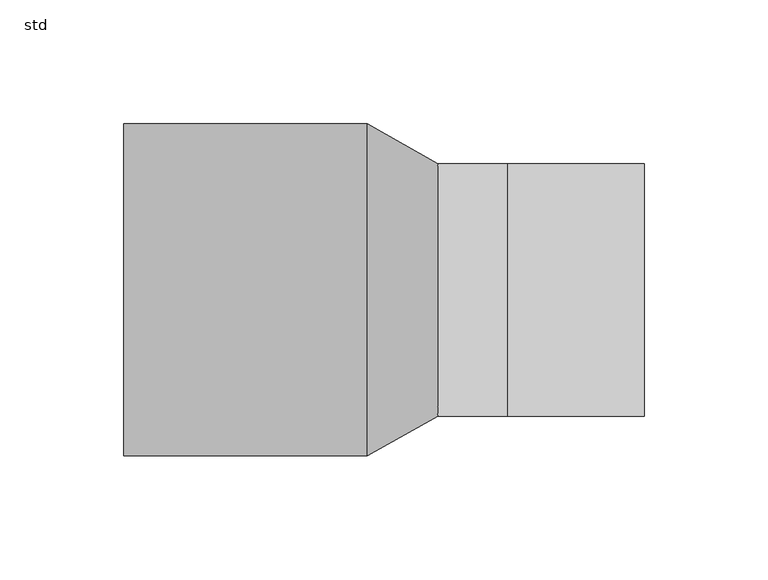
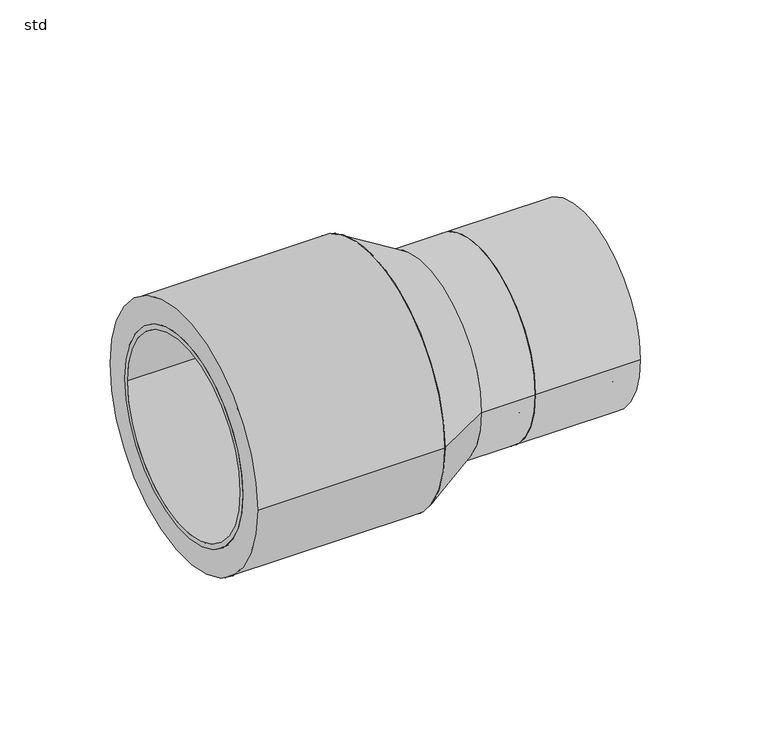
"""IFC4 building model written with IfcOpenShell, lengths in millimetres: pipe fitting geometry, PIF_ST_UN_GM-X compound pipe optimiser (multiport)_ACO : std."""

import ifcopenshell
import ifcopenshell.guid

model = None  # the IFC model being written
_history = None  # IfcOwnerHistory: only IFC2X3 demands one
_inside = {}  # id of a spatial element -> (the spatial element, [elements in it])
_under = {}  # id of a project, library or spatial element -> (it, [spatial elements below it])
_declared = {}  # id of a project -> (the project, [libraries it declares])
_typed = {}  # id of a type object -> (the type object, [elements of that type])
_made_of = {}  # id of a material, layer set ... -> (it, [elements and type objects made of it])


def new_model(schema):
    """Start an empty IFC model of exactly this schema.

    Asked for "IFC4X3", IfcOpenShell would pick the latest addendum, in which some entities
    have other attributes; the version numbers below select the first issue.
    IFC2X3 requires an IfcOwnerHistory on every rooted entity: one is made here for all.
    """
    global model, _history
    if schema == "IFC4X3":
        model = ifcopenshell.file(schema_version=(4, 3, 0, 0))
    else:
        model = ifcopenshell.file(schema=schema)
    _inside.clear()
    _under.clear()
    _declared.clear()
    _typed.clear()
    _made_of.clear()
    _history = None
    if model.schema == "IFC2X3":
        org = make("IfcOrganization", Name="unknown")
        user = make(
            "IfcPersonAndOrganization",
            ThePerson=make("IfcPerson", FamilyName="unknown"),
            TheOrganization=org,
        )
        app = make(
            "IfcApplication",
            ApplicationDeveloper=org,
            Version="unknown",
            ApplicationFullName="unknown",
            ApplicationIdentifier="unknown",
        )
        _history = make(
            "IfcOwnerHistory",
            OwningUser=user,
            OwningApplication=app,
            ChangeAction="ADDED",
            CreationDate=0,
        )
    return model


def make(cls, **values):
    """One entity of the class cls with the attributes given. An attribute that is None is left unset."""
    return model.create_entity(
        cls, **{name: value for name, value in values.items() if value is not None}
    )


def rooted(cls, **values):
    """An entity with a GlobalId (a new one), such as an element, a storey or a relation."""
    return make(cls, GlobalId=ifcopenshell.guid.new(), OwnerHistory=_history, **values)


def si_unit(unit_type, name, prefix=None):
    """IfcSIUnit, for example si_unit("LENGTHUNIT", "METRE", prefix="MILLI")."""
    return make("IfcSIUnit", UnitType=unit_type, Prefix=prefix, Name=name)


def assignment(units):
    """IfcUnitAssignment: the units of a project."""
    return None if units is None else make("IfcUnitAssignment", Units=units)


def point(xyz):
    """IfcCartesianPoint."""
    return None if xyz is None else make("IfcCartesianPoint", Coordinates=xyz)


def direction(xyz):
    """IfcDirection."""
    return None if xyz is None else make("IfcDirection", DirectionRatios=xyz)


def frame(location, z_axis=None, x_axis=None):
    """IfcAxis2Placement3D, a coordinate frame: its origin and axes. An axis left out is left unset."""
    return make(
        "IfcAxis2Placement3D",
        Location=point(location),
        Axis=direction(z_axis),
        RefDirection=direction(x_axis),
    )


def frame_2d(location, x_axis=None):
    """IfcAxis2Placement2D, a coordinate frame in the plane: its origin and x axis."""
    return make(
        "IfcAxis2Placement2D", Location=point(location), RefDirection=direction(x_axis)
    )


def origin():
    """The frame at (0, 0, 0) with its axes left unset."""
    return frame((0.0, 0.0, 0.0))


def origin_2d():
    """The frame at (0, 0) in the plane with its x axis left unset."""
    return frame_2d((0.0, 0.0))


def place(relative_to, where):
    """IfcLocalPlacement: puts the frame where relative to a parent placement (None: the world)."""
    return make(
        "IfcLocalPlacement", PlacementRelTo=relative_to, RelativePlacement=where
    )


def context(
    kind, dimensions, precision=None, world=None, true_north=None, identifier=None
):
    """IfcGeometricRepresentationContext, for example the 3D "Model" context."""
    return make(
        "IfcGeometricRepresentationContext",
        ContextIdentifier=identifier,
        ContextType=kind,
        CoordinateSpaceDimension=dimensions,
        Precision=precision,
        WorldCoordinateSystem=world,
        TrueNorth=true_north,
    )


def project(units=None, contexts=None):
    """IfcProject with its units and contexts."""
    return rooted(
        "IfcProject",
        Name="project",
        RepresentationContexts=contexts,
        UnitsInContext=assignment(units),
    )


def spatial(cls, under=None, at=None, **own):
    """A site, building, storey or space (cls), placed at a placement, below another one or the project."""
    s = rooted(cls, ObjectPlacement=at, **own)
    if under is not None:
        _under.setdefault(under.id(), (under, []))[1].append(s)
    return s


def polyline(points):
    """IfcPolyline through the points."""
    return make("IfcPolyline", Points=[point(p) for p in points])


def circle_curve(where, radius):
    """IfcCircle in the frame where."""
    return make("IfcCircle", Position=where, Radius=radius)


def trimmed(basis, trim1, trim2, sense, master):
    """IfcTrimmedCurve: the piece of a basis curve between two trims."""
    return make(
        "IfcTrimmedCurve",
        BasisCurve=basis,
        Trim1=trim1,
        Trim2=trim2,
        SenseAgreement=sense,
        MasterRepresentation=master,
    )


def segment(curve, same_sense, transition):
    """IfcCompositeCurveSegment."""
    return make(
        "IfcCompositeCurveSegment",
        Transition=transition,
        SameSense=same_sense,
        ParentCurve=curve,
    )


def composite_curve(segments, self_intersect=None):
    """IfcCompositeCurve: segments joined end to end."""
    return make("IfcCompositeCurve", Segments=segments, SelfIntersect=self_intersect)


def outline(outer, holes=None, kind="AREA"):
    """IfcArbitraryClosedProfileDef: a profile drawn as a closed curve; with holes, ...WithVoids."""
    if holes is None:
        return make("IfcArbitraryClosedProfileDef", ProfileType=kind, OuterCurve=outer)
    return make(
        "IfcArbitraryProfileDefWithVoids",
        ProfileType=kind,
        OuterCurve=outer,
        InnerCurves=holes,
    )


def extrude(swept, where, along, depth):
    """IfcExtrudedAreaSolid: the profile swept, set in the frame where, extruded along a direction by depth."""
    return make(
        "IfcExtrudedAreaSolid",
        SweptArea=swept,
        Position=where,
        ExtrudedDirection=direction(along),
        Depth=depth,
    )


def shape(context_of_items, identifier, shape_type, items):
    """IfcShapeRepresentation: the items that make up one representation, for example the "Body"."""
    return make(
        "IfcShapeRepresentation",
        ContextOfItems=context_of_items,
        RepresentationIdentifier=identifier,
        RepresentationType=shape_type,
        Items=items,
    )


def source(mapping_origin, context_of_items, identifier, shape_type, items):
    """IfcRepresentationMap: a shape defined once, which mapped items show again and again."""
    return make(
        "IfcRepresentationMap",
        MappingOrigin=mapping_origin,
        MappedRepresentation=shape(context_of_items, identifier, shape_type, items),
    )


def transform(
    local_origin,
    x_axis=None,
    y_axis=None,
    z_axis=None,
    scale=None,
    scale2=None,
    scale3=None,
    uniform=True,
):
    """IfcCartesianTransformationOperator3D, or its non-uniform kind. x_axis, y_axis, z_axis: its Axis1, 2, 3."""
    if uniform:
        return make(
            "IfcCartesianTransformationOperator3D",
            Axis1=direction(x_axis),
            Axis2=direction(y_axis),
            LocalOrigin=point(local_origin),
            Scale=scale,
            Axis3=direction(z_axis),
        )
    return make(
        "IfcCartesianTransformationOperator3DnonUniform",
        Axis1=direction(x_axis),
        Axis2=direction(y_axis),
        LocalOrigin=point(local_origin),
        Scale=scale,
        Axis3=direction(z_axis),
        Scale2=scale2,
        Scale3=scale3,
    )


def mapped(mapping_source, mapping_target):
    """IfcMappedItem: shows the shape of a source again, moved by a transform."""
    return make(
        "IfcMappedItem", MappingSource=mapping_source, MappingTarget=mapping_target
    )


def made_of(thing, what):
    """Note that an element or type object is made of a material, layer set ...; save() writes the relation."""
    if what is not None:
        _made_of.setdefault(what.id(), (what, []))[1].append(thing)
    return thing


def element(
    cls,
    number,
    at=None,
    inside=None,
    cuts=None,
    type_object=None,
    material=None,
    context=None,
    identifier="Body",
    shape_type=None,
    held_by="IfcProductDefinitionShape",
    body=None,
    shapes=None,
    **own,
):
    """One element of the class cls, such as IfcWall. Its Tag is "e" and its number.

    at: its placement. inside: the storey or other place that contains it. cuts: it is an
    opening in that element (IfcRelVoidsElement). A single representation is given by context,
    identifier, shape_type and body (its items); several are given by shapes. held_by: the class
    of the entity that holds the representations. save() writes the other relations.
    """
    e = rooted(cls, Tag="e%d" % number, ObjectPlacement=at, **own)
    if body is not None:
        shapes = [shape(context, identifier, shape_type, body)]
    if shapes is not None:
        e.Representation = make(held_by, Representations=shapes)
    if inside is not None:
        _inside.setdefault(inside.id(), (inside, []))[1].append(e)
    if cuts is not None:
        rooted(
            "IfcRelVoidsElement", RelatingBuildingElement=cuts, RelatedOpeningElement=e
        )
    if type_object is not None:
        _typed.setdefault(type_object.id(), (type_object, []))[1].append(e)
    return made_of(e, material)


def aggregate(whole, parts):
    """IfcRelAggregates: a whole, such as a stair, and the parts it consists of."""
    return rooted("IfcRelAggregates", RelatingObject=whole, RelatedObjects=parts)


def save(model, path):
    """Write the relations noted so far, then the file.

    IfcRelAggregates (storeys below a building ...), IfcRelContainedInSpatialStructure (elements
    in a storey), IfcRelDefinesByType, IfcRelAssociatesMaterial and IfcRelDeclares: one each for
    every whole, place, type object, material and project.
    """
    for whole, parts in _under.values():
        aggregate(whole, parts)
    for where, things in _inside.values():
        rooted(
            "IfcRelContainedInSpatialStructure",
            RelatedElements=things,
            RelatingStructure=where,
        )
    for kind, things in _typed.values():
        rooted("IfcRelDefinesByType", RelatedObjects=things, RelatingType=kind)
    for what, things in _made_of.values():
        rooted("IfcRelAssociatesMaterial", RelatedObjects=things, RelatingMaterial=what)
    for by, libraries in _declared.values():
        rooted("IfcRelDeclares", RelatingContext=by, RelatedDefinitions=libraries)
    model.write(path)


def plane_surface(at):
    """IfcPlane: the flat surface through the origin of the frame at, square to its z axis."""
    return make("IfcPlane", Position=at)


def cylinder_surface(at, radius):
    """IfcCylindricalSurface: all points at the distance radius from the z axis of the frame at."""
    return make("IfcCylindricalSurface", Position=at, Radius=radius)


def revolved_surface(curve, axis_point, axis_direction):
    """IfcSurfaceOfRevolution: the curve turned about the line through axis_point along axis_direction."""
    return make(
        "IfcSurfaceOfRevolution",
        SweptCurve=make("IfcArbitraryOpenProfileDef", ProfileType="CURVE", Curve=curve),
        AxisPosition=make("IfcAxis1Placement", Location=point(axis_point), Axis=direction(axis_direction)),
    )


def advanced_brep(points, edges, surfaces, faces):
    """IfcAdvancedBrep: a solid bounded by faces that lie on surfaces and meet in shared edges.

    An edge is (start, end): straight between two places in points (the first is 0);
    or (start, end, curve); or (start, end, curve, False) where it runs against its curve.
    A face is (place in surfaces, loops), or (place, loops, False) where it looks against
    its surface's normal. A loop lists edges by number (the first is 1), with a minus sign
    where the edge is run from its end to its start. The first loop is the outer one.
    """
    corners = [point(p) for p in points]
    vertices = [make("IfcVertexPoint", VertexGeometry=c) for c in corners]
    made = []
    for start, end, *more in edges:
        made.append(
            make(
                "IfcEdgeCurve",
                EdgeStart=vertices[start],
                EdgeEnd=vertices[end],
                EdgeGeometry=more[0] if more else make("IfcPolyline", Points=[corners[start], corners[end]]),
                SameSense=more[1] if len(more) > 1 else True,
            )
        )
    hull = []
    for where, loops, *sense in faces:
        bounds = []
        for j, loop in enumerate(loops):
            ring = [make("IfcOrientedEdge", EdgeElement=made[abs(k) - 1], Orientation=k > 0) for k in loop]
            bounds.append(
                make(
                    "IfcFaceOuterBound" if j == 0 else "IfcFaceBound",
                    Bound=make("IfcEdgeLoop", EdgeList=ring),
                    Orientation=True,
                )
            )
        hull.append(make("IfcAdvancedFace", Bounds=bounds, FaceSurface=surfaces[where], SameSense=sense[0] if sense else True))
    return make("IfcAdvancedBrep", Outer=make("IfcClosedShell", CfsFaces=hull))


def std_a092916b(model_context):
    return source(origin(), model_context, "Body", "SolidModel", [
        extrude(outline(composite_curve([segment(trimmed(circle_curve(origin_2d(), 51.0), [point((-51.0, 0.0))], [point((51.0, 0.0))], False, "CARTESIAN"), True, "CONTINUOUS"), segment(trimmed(circle_curve(origin_2d(), 51.0), [point((51.0, 0.0))], [point((-51.0, 0.0))], False, "CARTESIAN"), True, "CONTINUOUS")], self_intersect=False), holes=[composite_curve([segment(trimmed(circle_curve(origin_2d(), 38.0), [point((-38.0, 0.0))], [point((38.0, 0.0))], True, "CARTESIAN"), True, "CONTINUOUS"), segment(trimmed(circle_curve(origin_2d(), 38.0), [point((38.0, 0.0))], [point((-38.0, 0.0))], True, "CARTESIAN"), True, "CONTINUOUS")], self_intersect=False)]), frame((85.0, 0.0, 0.0), z_axis=(1.0, 0.0, 0.0), x_axis=(0.0, 1.0, 0.0)), (0.0, 0.0, 1.0), 55.0),
        advanced_brep(
        [(140.0, -38.0, 0.0), (140.0, 38.0, 0.0), (140.0, 36.5, 0.0), (140.0, -36.5, 0.0), (85.0, -38.0, 0.0), (85.0, 38.0, 0.0), (85.0, -36.5, 0.0), (85.0, 36.5, 0.0), (111.0, -38.0, 0.0), (111.0, 38.0, 0.0), (90.9, 38.0, 0.0), (90.9, -38.0, 0.0), (111.0, -42.1, 0.0), (111.0, 42.1, 0.0), (90.9, -42.1, 0.0), (90.9, 42.1, 0.0)],
        [
            (0, 1, circle_curve(frame((140.0, 0.0, 0.0), z_axis=(1.0, 0.0, 0.0), x_axis=(0.0, 1.0, 0.0)), 38.0)),
            (1, 0, circle_curve(frame((140.0, 0.0, 0.0), z_axis=(1.0, 0.0, 0.0), x_axis=(0.0, 1.0, 0.0)), 38.0)),
            (2, 3, circle_curve(frame((140.0, 0.0, 0.0), z_axis=(-1.0, 0.0, 0.0), x_axis=(0.0, 1.0, 0.0)), 36.5)),
            (3, 2, circle_curve(frame((140.0, 0.0, 0.0), z_axis=(-1.0, 0.0, 0.0), x_axis=(0.0, 1.0, 0.0)), 36.5)),
            (4, 5, circle_curve(frame((85.0, 0.0, 0.0), z_axis=(-1.0, 0.0, 0.0), x_axis=(0.0, 1.0, 0.0)), 38.0)),
            (5, 4, circle_curve(frame((85.0, 0.0, 0.0), z_axis=(-1.0, 0.0, 0.0), x_axis=(0.0, 1.0, 0.0)), 38.0)),
            (6, 7, circle_curve(frame((85.0, 0.0, 0.0), z_axis=(1.0, 0.0, 0.0), x_axis=(0.0, 1.0, 0.0)), 36.5)),
            (7, 6, circle_curve(frame((85.0, 0.0, 0.0), z_axis=(1.0, 0.0, 0.0), x_axis=(0.0, 1.0, 0.0)), 36.5)),
            (0, 8),
            (8, 9, circle_curve(frame((111.0, 0.0, 0.0), z_axis=(1.0, 0.0, 0.0), x_axis=(0.0, 1.0, 0.0)), 38.0)),
            (9, 1),
            (5, 10),
            (10, 11, circle_curve(frame((90.9, 0.0, 0.0), z_axis=(-1.0, 0.0, 0.0), x_axis=(0.0, 1.0, 0.0)), 38.0)),
            (11, 4),
            (9, 8, circle_curve(frame((111.0, 0.0, 0.0), z_axis=(1.0, 0.0, 0.0), x_axis=(0.0, 1.0, 0.0)), 38.0)),
            (11, 10, circle_curve(frame((90.9, 0.0, 0.0), z_axis=(-1.0, 0.0, 0.0), x_axis=(0.0, 1.0, 0.0)), 38.0)),
            (2, 7),
            (6, 3),
            (12, 13, circle_curve(frame((111.0, 0.0, 0.0), z_axis=(1.0, 0.0, 0.0), x_axis=(0.0, 1.0, 0.0)), 42.1)),
            (13, 12, circle_curve(frame((111.0, 0.0, 0.0), z_axis=(1.0, 0.0, 0.0), x_axis=(0.0, 1.0, 0.0)), 42.1)),
            (14, 15, circle_curve(frame((90.9, 0.0, 0.0), z_axis=(-1.0, 0.0, 0.0), x_axis=(0.0, 1.0, 0.0)), 42.1)),
            (15, 14, circle_curve(frame((90.9, 0.0, 0.0), z_axis=(-1.0, 0.0, 0.0), x_axis=(0.0, 1.0, 0.0)), 42.1)),
            (12, 14),
            (15, 13),
        ],
        [
            plane_surface(frame((140.0, 38.0, 0.0), z_axis=(1.0, 0.0, 0.0), x_axis=(0.0, 0.0, 1.0))),
            plane_surface(frame((85.0, 38.0, 0.0), z_axis=(-1.0, 0.0, 0.0), x_axis=(0.0, 0.0, -1.0))),
            cylinder_surface(frame((85.0, 0.0, 0.0), z_axis=(1.0, 0.0, 0.0), x_axis=(0.0, 1.0, 0.0)), 38.0),
            revolved_surface(polyline([(140.0, 36.5, 0.0), (85.0, 36.5, 0.0)]), (85.0, 0.0, 0.0), (1.0, 0.0, 0.0)),
            plane_surface(frame((111.0, 42.1, 0.0), z_axis=(1.0, 0.0, 0.0), x_axis=(0.0, 0.0, 1.0))),
            plane_surface(frame((90.9, 42.1, 0.0), z_axis=(-1.0, 0.0, 0.0), x_axis=(0.0, 0.0, -1.0))),
            cylinder_surface(frame((90.9, 0.0, 0.0), z_axis=(1.0, 0.0, 0.0), x_axis=(0.0, 1.0, 0.0)), 42.1),
        ],
        [
            (0, [[1, 2], [3, 4]]),
            (1, [[5, 6], [7, 8]]),
            (2, [[-1, 9, 10, 11]]),
            (2, [[-6, 12, 13, 14]]),
            (2, [[-2, -11, 15, -9]]),
            (2, [[-5, -14, 16, -12]]),
            (3, [[17, -7, 18, -3]]),
            (3, [[-17, -4, -18, -8]]),
            (4, [[19, 20], [-10, -15]]),
            (5, [[21, 22], [-13, -16]]),
            (6, [[-19, 23, -22, 24]]),
            (6, [[-20, -24, -21, -23]]),
        ],
    ),
        advanced_brep(
        [(-61.7, -59.0, 0.0), (-61.7, 59.0, 0.0), (-33.0, 59.0, 0.0), (-33.0, -59.0, 0.0), (-70.0, 53.5, 0.0), (-70.0, -53.5, 0.0), (-70.0, -51.0, 0.0), (-70.0, 51.0, 0.0), (0.0, 53.5, 0.0), (0.0, -53.5, 0.0), (0.0, 51.0, 0.0), (0.0, -51.0, 0.0), (-61.7, 53.5, 0.0), (-61.7, -53.5, 0.0), (-33.0, -53.5, 0.0), (-33.0, 53.5, 0.0)],
        [
            (0, 1, circle_curve(frame((-61.7, 0.0, 0.0), z_axis=(1.0, 0.0, 0.0), x_axis=(0.0, -1.0, 0.0)), 59.0)),
            (1, 2),
            (2, 3, circle_curve(frame((-33.0, 0.0, 0.0), z_axis=(-1.0, 0.0, 0.0), x_axis=(0.0, -1.0, 0.0)), 59.0)),
            (3, 0),
            (1, 0, circle_curve(frame((-61.7, 0.0, 0.0), z_axis=(1.0, 0.0, 0.0), x_axis=(0.0, -1.0, 0.0)), 59.0)),
            (3, 2, circle_curve(frame((-33.0, 0.0, 0.0), z_axis=(-1.0, 0.0, 0.0), x_axis=(0.0, -1.0, 0.0)), 59.0)),
            (4, 5, circle_curve(frame((-70.0, 0.0, 0.0), z_axis=(-1.0, 0.0, 0.0), x_axis=(0.0, -1.0, 0.0)), 53.5)),
            (5, 4, circle_curve(frame((-70.0, 0.0, 0.0), z_axis=(-1.0, 0.0, 0.0), x_axis=(0.0, -1.0, 0.0)), 53.5)),
            (6, 7, circle_curve(frame((-70.0, 0.0, 0.0), z_axis=(1.0, 0.0, 0.0), x_axis=(0.0, -1.0, 0.0)), 51.0)),
            (7, 6, circle_curve(frame((-70.0, 0.0, 0.0), z_axis=(1.0, 0.0, 0.0), x_axis=(0.0, -1.0, 0.0)), 51.0)),
            (8, 9, circle_curve(frame((0.0, 0.0, 0.0), z_axis=(1.0, 0.0, 0.0), x_axis=(0.0, -1.0, 0.0)), 53.5)),
            (9, 8, circle_curve(frame((0.0, 0.0, 0.0), z_axis=(1.0, 0.0, 0.0), x_axis=(0.0, -1.0, 0.0)), 53.5)),
            (10, 11, circle_curve(frame((0.0, 0.0, 0.0), z_axis=(-1.0, 0.0, 0.0), x_axis=(0.0, -1.0, 0.0)), 51.0)),
            (11, 10, circle_curve(frame((0.0, 0.0, 0.0), z_axis=(-1.0, 0.0, 0.0), x_axis=(0.0, -1.0, 0.0)), 51.0)),
            (4, 12),
            (12, 13, circle_curve(frame((-61.7, 0.0, 0.0), z_axis=(-1.0, 0.0, 0.0), x_axis=(0.0, -1.0, 0.0)), 53.5)),
            (13, 5),
            (9, 14),
            (14, 15, circle_curve(frame((-33.0, 0.0, 0.0), z_axis=(1.0, 0.0, 0.0), x_axis=(0.0, -1.0, 0.0)), 53.5)),
            (15, 8),
            (13, 12, circle_curve(frame((-61.7, 0.0, 0.0), z_axis=(-1.0, 0.0, 0.0), x_axis=(0.0, -1.0, 0.0)), 53.5)),
            (15, 14, circle_curve(frame((-33.0, 0.0, 0.0), z_axis=(1.0, 0.0, 0.0), x_axis=(0.0, -1.0, 0.0)), 53.5)),
            (6, 11),
            (10, 7),
        ],
        [
            cylinder_surface(frame((-33.0, 0.0, 0.0), z_axis=(-1.0, 0.0, 0.0), x_axis=(0.0, -1.0, 0.0)), 59.0),
            plane_surface(frame((-70.0, -53.5, 0.0), z_axis=(-1.0, 0.0, 0.0), x_axis=(0.0, 0.0, 1.0))),
            plane_surface(frame((0.0, -53.5, 0.0), z_axis=(1.0, 0.0, 0.0), x_axis=(0.0, 0.0, -1.0))),
            cylinder_surface(frame((0.0, 0.0, 0.0), z_axis=(-1.0, 0.0, 0.0), x_axis=(0.0, -1.0, 0.0)), 53.5),
            revolved_surface(polyline([(-70.0, -51.0, 0.0), (0.0, -51.0, 0.0)]), (0.0, 0.0, 0.0), (-1.0, 0.0, 0.0)),
            plane_surface(frame((-61.7, -59.0, 0.0), z_axis=(-1.0, 0.0, 0.0), x_axis=(0.0, 0.0, 1.0))),
            plane_surface(frame((-33.0, -59.0, 0.0), z_axis=(1.0, 0.0, 0.0), x_axis=(0.0, 0.0, -1.0))),
        ],
        [
            (0, [[1, 2, 3, 4]]),
            (0, [[5, -4, 6, -2]]),
            (1, [[7, 8], [9, 10]]),
            (2, [[11, 12], [13, 14]]),
            (3, [[-7, 15, 16, 17]]),
            (3, [[-12, 18, 19, 20]]),
            (3, [[-8, -17, 21, -15]]),
            (3, [[-11, -20, 22, -18]]),
            (4, [[23, -13, 24, -9]]),
            (4, [[-23, -10, -24, -14]]),
            (5, [[-1, -5], [-16, -21]]),
            (6, [[-6, -3], [-19, -22]]),
        ],
    ),
        advanced_brep(
        [(56.6666667, -51.0, 0.0), (56.6666667, 51.0, 0.0), (28.3333333, -67.0, 0.0), (28.3333333, 67.0, 0.0)],
        [
            (0, 1, circle_curve(frame((56.6666667, 0.0, 0.0), z_axis=(1.0, 0.0, 0.0), x_axis=(0.0, -1.0, 0.0)), 51.0)),
            (1, 0, circle_curve(frame((56.6666667, 0.0, 0.0), z_axis=(1.0, 0.0, 0.0), x_axis=(0.0, 1.0, 0.0)), 51.0)),
            (2, 3, circle_curve(frame((28.3333333, 0.0, 0.0), z_axis=(-1.0, 0.0, 0.0), x_axis=(0.0, 1.0, 0.0)), 67.0)),
            (3, 2, circle_curve(frame((28.3333333, 0.0, 0.0), z_axis=(-1.0, 0.0, 0.0), x_axis=(0.0, -1.0, 0.0)), 67.0)),
            (3, 1),
            (0, 2),
        ],
        [
            plane_surface(frame((56.6666667, 0.0, 0.0), z_axis=(1.0, 0.0, 0.0), x_axis=(0.0, 0.0, -1.0))),
            plane_surface(frame((28.3333333, 0.0, 0.0), z_axis=(-1.0, 0.0, 0.0), x_axis=(0.0, 0.0, -1.0))),
            revolved_surface(polyline([(56.66666670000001, -50.99999997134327, 0.0), (28.333333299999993, -67.0, 0.0)]), (146.9791667, 0.0, 0.0), (-1.0, 0.0, 0.0)),
            revolved_surface(polyline([(56.66666670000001, 50.99999997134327, 0.0), (28.333333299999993, 67.0, 0.0)]), (146.9791667, 0.0, 0.0), (-1.0, 0.0, 0.0)),
        ],
        [
            (0, [[1, 2]]),
            (1, [[3, 4]]),
            (2, [[-4, 5, -1, 6]]),
            (3, [[-3, -6, -2, -5]]),
        ],
    ),
        advanced_brep(
        [(-70.0, -67.0, 0.0), (-70.0, 67.0, 0.0), (-70.0, 53.5, 0.0), (-70.0, -53.5, 0.0), (28.3333333, -67.0, 0.0), (28.3333333, 67.0, 0.0), (0.0, -53.5, 0.0), (0.0, 53.5, 0.0)],
        [
            (0, 1, circle_curve(frame((-70.0, 0.0, 0.0), z_axis=(-1.0, 0.0, 0.0), x_axis=(0.0, 1.0, 0.0)), 67.0)),
            (1, 0, circle_curve(frame((-70.0, 0.0, 0.0), z_axis=(-1.0, 0.0, 0.0), x_axis=(0.0, 1.0, 0.0)), 67.0)),
            (2, 3, circle_curve(frame((-70.0, 0.0, 0.0), z_axis=(1.0, 0.0, 0.0), x_axis=(0.0, 1.0, 0.0)), 53.5)),
            (3, 2, circle_curve(frame((-70.0, 0.0, 0.0), z_axis=(1.0, 0.0, 0.0), x_axis=(0.0, 1.0, 0.0)), 53.5)),
            (4, 5, circle_curve(frame((28.3333333, 0.0, 0.0), z_axis=(1.0, 0.0, 0.0), x_axis=(0.0, 1.0, 0.0)), 67.0)),
            (5, 4, circle_curve(frame((28.3333333, 0.0, 0.0), z_axis=(1.0, 0.0, 0.0), x_axis=(0.0, 1.0, 0.0)), 67.0)),
            (0, 4),
            (5, 1),
            (6, 7, circle_curve(frame((0.0, 0.0, 0.0), z_axis=(-1.0, 0.0, 0.0), x_axis=(0.0, 1.0, 0.0)), 53.5)),
            (7, 6, circle_curve(frame((0.0, 0.0, 0.0), z_axis=(-1.0, 0.0, 0.0), x_axis=(0.0, 1.0, 0.0)), 53.5)),
            (6, 3),
            (2, 7),
        ],
        [
            plane_surface(frame((-70.0, 67.0, 0.0), z_axis=(-1.0, 0.0, 0.0), x_axis=(0.0, 0.0, -1.0))),
            plane_surface(frame((28.3333333, 67.0, 0.0), z_axis=(1.0, 0.0, 0.0), x_axis=(0.0, 0.0, 1.0))),
            cylinder_surface(frame((28.3333333, 0.0, 0.0), z_axis=(-1.0, 0.0, 0.0), x_axis=(0.0, 1.0, 0.0)), 67.0),
            plane_surface(frame((0.0, 53.5, 0.0), z_axis=(-1.0, 0.0, 0.0), x_axis=(0.0, 0.0, 1.0))),
            revolved_surface(polyline([(-70.0, 53.5, 0.0), (0.0, 53.5, 0.0)]), (0.0, 0.0, 0.0), (-1.0, 0.0, 0.0)),
        ],
        [
            (0, [[1, 2], [3, 4]]),
            (1, [[5, 6]]),
            (2, [[-1, 7, -6, 8]]),
            (2, [[-2, -8, -5, -7]]),
            (3, [[9, 10]]),
            (4, [[-9, 11, -3, 12]]),
            (4, [[-10, -12, -4, -11]]),
        ],
    ),
        extrude(outline(composite_curve([segment(trimmed(circle_curve(origin_2d(), 51.0), [point((51.0, 0.0))], [point((-51.0, 0.0))], False, "CARTESIAN"), True, "CONTINUOUS"), segment(trimmed(circle_curve(origin_2d(), 51.0), [point((-51.0, 0.0))], [point((51.0, 0.0))], False, "CARTESIAN"), True, "CONTINUOUS")], self_intersect=False)), frame((56.6666667, 0.0, 0.0), z_axis=(1.0, 0.0, 0.0), x_axis=(0.0, 1.0, 0.0)), (0.0, 0.0, 1.0), 28.3333333),
        extrude(outline(composite_curve([segment(trimmed(circle_curve(origin_2d(), 36.5), [point((36.5, 0.0))], [point((-36.5, 0.0))], False, "CARTESIAN"), True, "CONTINUOUS"), segment(trimmed(circle_curve(origin_2d(), 36.5), [point((-36.5, 0.0))], [point((36.5, 0.0))], False, "CARTESIAN"), True, "CONTINUOUS")], self_intersect=False)), frame((85.0, 0.0, 0.0), z_axis=(1.0, 0.0, 0.0), x_axis=(0.0, 1.0, 0.0)), (0.0, 0.0, 1.0), 55.0),
    ])


if __name__ == "__main__":
    model = new_model("IFC4")
    model_context = context("Model", 3, world=origin())
    ifc_project = project(units=[si_unit("LENGTHUNIT", "METRE", prefix="MILLI")], contexts=[model_context])
    site = spatial("IfcSite", under=ifc_project)
    building = spatial("IfcBuilding", under=site)
    placement = place(None, origin())
    std_shape = std_a092916b(model_context)
    element("IfcPipeFitting", 1, ObjectType="PIF_ST_UN_GM-X compound pipe optimiser (multiport)_ACO : std", at=placement, inside=building, context=model_context, shape_type="MappedRepresentation", body=[
        mapped(std_shape, transform((0.0, 0.0, 0.0), x_axis=(1.0, 0.0, 0.0), y_axis=(0.0, 1.0, 0.0), z_axis=(0.0, 0.0, 1.0))),
    ])
    save(model, "model.ifc")
